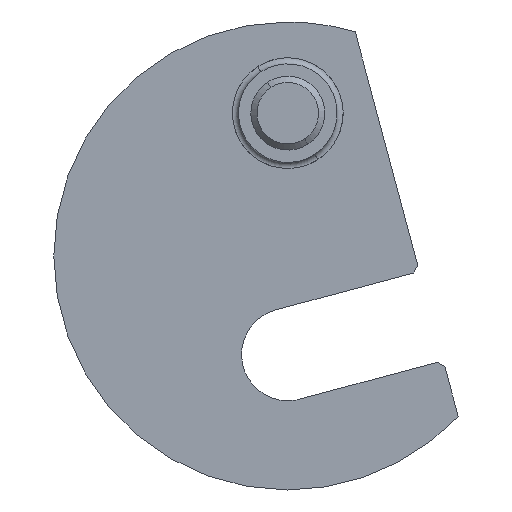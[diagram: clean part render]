
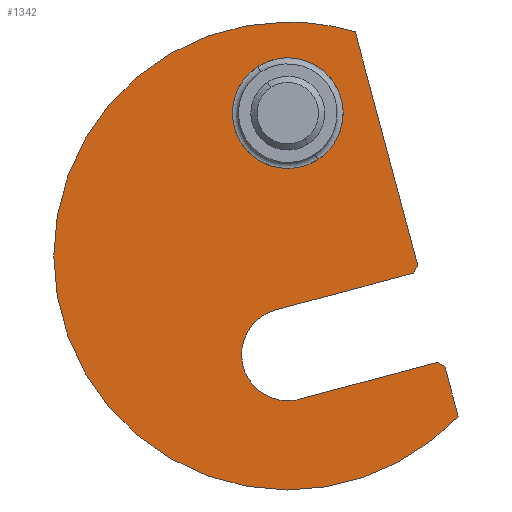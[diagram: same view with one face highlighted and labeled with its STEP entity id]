
A CAD part, front view. The second image highlights one B-rep face of the part: STEP entity #1342.
In plain terms, the highlighted planar face has unit normal (0, -1, 0).
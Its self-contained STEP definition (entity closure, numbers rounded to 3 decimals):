
#93 = VERTEX_POINT ( 'NONE', #940 ) ;
#107 = VERTEX_POINT ( 'NONE', #621 ) ;
#108 = VERTEX_POINT ( 'NONE', #620 ) ;
#127 = EDGE_CURVE ( 'NONE', #107, #108, #610, .T. ) ;
#138 = EDGE_CURVE ( 'NONE', #139, #188, #1199, .T. ) ;
#139 = VERTEX_POINT ( 'NONE', #1208 ) ;
#188 = VERTEX_POINT ( 'NONE', #417 ) ;
#417 = CARTESIAN_POINT ( 'NONE',  ( 0., 0., 16.1 ) ) ;
#499 = DIRECTION ( 'NONE',  ( 0.259, 0., -0.966 ) ) ;
#500 = VECTOR ( 'NONE', #499, 1000. ) ;
#501 = CARTESIAN_POINT ( 'NONE',  ( 5.478, 0., 18.193 ) ) ;
#503 = LINE ( 'NONE', #501, #500 ) ;
#505 = AXIS2_PLACEMENT_3D ( 'NONE', #513, #512, #511 ) ;
#506 = DIRECTION ( 'NONE',  ( 0., -1., 0. ) ) ;
#508 = AXIS2_PLACEMENT_3D ( 'NONE', #521, #506, #522 ) ;
#511 = DIRECTION ( 'NONE',  ( 0., 0., 1. ) ) ;
#512 = DIRECTION ( 'NONE',  ( 0., 1., 0. ) ) ;
#513 = CARTESIAN_POINT ( 'NONE',  ( 0., 0., 0. ) ) ;
#515 = CIRCLE ( 'NONE', #508, 3.75 ) ;
#516 = DIRECTION ( 'NONE',  ( -0.866, 0., 0.5 ) ) ;
#517 = VECTOR ( 'NONE', #516, 1000. ) ;
#518 = CARTESIAN_POINT ( 'NONE',  ( 12.759, 0., -8.981 ) ) ;
#519 = LINE ( 'NONE', #518, #517 ) ;
#520 = CIRCLE ( 'NONE', #505, 19. ) ;
#521 = CARTESIAN_POINT ( 'NONE',  ( 0., 0., -8. ) ) ;
#522 = DIRECTION ( 'NONE',  ( 0., 0., 1. ) ) ;
#523 = CARTESIAN_POINT ( 'NONE',  ( 10.206, 0., -1.383 ) ) ;
#524 = CARTESIAN_POINT ( 'NONE',  ( -0.971, 0., -4.378 ) ) ;
#525 = CARTESIAN_POINT ( 'NONE',  ( -0.971, 0., -4.378 ) ) ;
#526 = LINE ( 'NONE', #525, #533 ) ;
#527 = DIRECTION ( 'NONE',  ( 0.5, 0., 0.866 ) ) ;
#528 = VECTOR ( 'NONE', #527, 1000. ) ;
#529 = LINE ( 'NONE', #523, #528 ) ;
#531 = CARTESIAN_POINT ( 'NONE',  ( 12.147, 0., -8.628 ) ) ;
#532 = DIRECTION ( 'NONE',  ( -0.966, 0., -0.259 ) ) ;
#533 = VECTOR ( 'NONE', #532, 1000. ) ;
#534 = LINE ( 'NONE', #537, #536 ) ;
#535 = DIRECTION ( 'NONE',  ( 0.259, 0., -0.966 ) ) ;
#536 = VECTOR ( 'NONE', #535, 1000. ) ;
#537 = CARTESIAN_POINT ( 'NONE',  ( 12.63, 0., -8.498 ) ) ;
#606 = CARTESIAN_POINT ( 'NONE',  ( 0., 0., -8. ) ) ;
#607 = DIRECTION ( 'NONE',  ( 0., 0., 1. ) ) ;
#608 = DIRECTION ( 'NONE',  ( 0., -1., 0. ) ) ;
#609 = AXIS2_PLACEMENT_3D ( 'NONE', #606, #608, #607 ) ;
#610 = CIRCLE ( 'NONE', #609, 3.75 ) ;
#620 = CARTESIAN_POINT ( 'NONE',  ( 0.971, 0., -11.622 ) ) ;
#621 = CARTESIAN_POINT ( 'NONE',  ( 0., 0., -11.75 ) ) ;
#697 = CARTESIAN_POINT ( 'NONE',  ( 0., 0., 0. ) ) ;
#700 = DIRECTION ( 'NONE',  ( 0., 1., 0. ) ) ;
#702 = PLANE ( 'NONE',  #705 ) ;
#704 = DIRECTION ( 'NONE',  ( 0., 0., 1. ) ) ;
#705 = AXIS2_PLACEMENT_3D ( 'NONE', #697, #700, #704 ) ;
#718 = CARTESIAN_POINT ( 'NONE',  ( 10.559, 0., -0.771 ) ) ;
#721 = VECTOR ( 'NONE', #745, 1000. ) ;
#722 = CARTESIAN_POINT ( 'NONE',  ( 0.971, 0., -11.622 ) ) ;
#723 = LINE ( 'NONE', #722, #721 ) ;
#724 = CARTESIAN_POINT ( 'NONE',  ( 12.759, 0., -8.981 ) ) ;
#733 = DIRECTION ( 'NONE',  ( 0., 0., 1. ) ) ;
#734 = DIRECTION ( 'NONE',  ( 0., 1., 0. ) ) ;
#737 = CARTESIAN_POINT ( 'NONE',  ( 13.841, 0., -13.017 ) ) ;
#745 = DIRECTION ( 'NONE',  ( 0.966, 0., 0.259 ) ) ;
#746 = CARTESIAN_POINT ( 'NONE',  ( 0., 0., 0. ) ) ;
#747 = AXIS2_PLACEMENT_3D ( 'NONE', #746, #734, #733 ) ;
#748 = CIRCLE ( 'NONE', #747, 19. ) ;
#758 = CARTESIAN_POINT ( 'NONE',  ( 10.206, 0., -1.383 ) ) ;
#759 = FACE_OUTER_BOUND ( 'NONE', #1341, .T. ) ;
#762 = FACE_BOUND ( 'NONE', #1324, .T. ) ;
#766 = CARTESIAN_POINT ( 'NONE',  ( 5.478, 0., 18.193 ) ) ;
#776 = DIRECTION ( 'NONE',  ( 0., 0., 1. ) ) ;
#777 = DIRECTION ( 'NONE',  ( 0., 1., 0. ) ) ;
#778 = CARTESIAN_POINT ( 'NONE',  ( 0., 0., 11.6 ) ) ;
#779 = AXIS2_PLACEMENT_3D ( 'NONE', #778, #777, #776 ) ;
#781 = CIRCLE ( 'NONE', #779, 4.5 ) ;
#811 = CARTESIAN_POINT ( 'NONE',  ( 0., 0., -19. ) ) ;
#812 = CIRCLE ( 'NONE', #816, 19. ) ;
#813 = DIRECTION ( 'NONE',  ( 0., 0., 1. ) ) ;
#814 = DIRECTION ( 'NONE',  ( 0., 1., 0. ) ) ;
#815 = CARTESIAN_POINT ( 'NONE',  ( 0., 0., 0. ) ) ;
#816 = AXIS2_PLACEMENT_3D ( 'NONE', #815, #814, #813 ) ;
#940 = CARTESIAN_POINT ( 'NONE',  ( 0., 0., 19. ) ) ;
#1195 = DIRECTION ( 'NONE',  ( 0., 0., 1. ) ) ;
#1196 = DIRECTION ( 'NONE',  ( 0., 1., 0. ) ) ;
#1197 = CARTESIAN_POINT ( 'NONE',  ( 0., 0., 11.6 ) ) ;
#1198 = AXIS2_PLACEMENT_3D ( 'NONE', #1197, #1196, #1195 ) ;
#1199 = CIRCLE ( 'NONE', #1198, 4.5 ) ;
#1208 = CARTESIAN_POINT ( 'NONE',  ( 0., 0., 7.1 ) ) ;
#1270 = ORIENTED_EDGE ( 'NONE', *, *, #1285, .F. ) ;
#1273 = ORIENTED_EDGE ( 'NONE', *, *, #1274, .F. ) ;
#1274 = EDGE_CURVE ( 'NONE', #1346, #1306, #503, .T. ) ;
#1275 = VERTEX_POINT ( 'NONE', #524 ) ;
#1276 = EDGE_CURVE ( 'NONE', #1340, #1306, #529, .T. ) ;
#1279 = ORIENTED_EDGE ( 'NONE', *, *, #1288, .T. ) ;
#1280 = EDGE_CURVE ( 'NONE', #1275, #107, #515, .T. ) ;
#1284 = EDGE_CURVE ( 'NONE', #93, #1346, #520, .T. ) ;
#1285 = EDGE_CURVE ( 'NONE', #1340, #1275, #526, .T. ) ;
#1287 = VERTEX_POINT ( 'NONE', #531 ) ;
#1288 = EDGE_CURVE ( 'NONE', #1315, #1287, #519, .T. ) ;
#1289 = ORIENTED_EDGE ( 'NONE', *, *, #127, .F. ) ;
#1290 = EDGE_CURVE ( 'NONE', #1315, #1313, #534, .T. ) ;
#1301 = ORIENTED_EDGE ( 'NONE', *, *, #138, .T. ) ;
#1302 = ORIENTED_EDGE ( 'NONE', *, *, #1303, .T. ) ;
#1303 = EDGE_CURVE ( 'NONE', #188, #139, #781, .T. ) ;
#1306 = VERTEX_POINT ( 'NONE', #718 ) ;
#1307 = ORIENTED_EDGE ( 'NONE', *, *, #1276, .T. ) ;
#1313 = VERTEX_POINT ( 'NONE', #737 ) ;
#1314 = ORIENTED_EDGE ( 'NONE', *, *, #1290, .F. ) ;
#1315 = VERTEX_POINT ( 'NONE', #724 ) ;
#1316 = ORIENTED_EDGE ( 'NONE', *, *, #1284, .F. ) ;
#1317 = ORIENTED_EDGE ( 'NONE', *, *, #1354, .F. ) ;
#1318 = EDGE_CURVE ( 'NONE', #1313, #1352, #748, .T. ) ;
#1322 = EDGE_CURVE ( 'NONE', #108, #1287, #723, .T. ) ;
#1323 = ORIENTED_EDGE ( 'NONE', *, *, #1280, .F. ) ;
#1324 = EDGE_LOOP ( 'NONE', ( #1301, #1302 ) ) ;
#1326 = ORIENTED_EDGE ( 'NONE', *, *, #1318, .F. ) ;
#1337 = ORIENTED_EDGE ( 'NONE', *, *, #1322, .F. ) ;
#1340 = VERTEX_POINT ( 'NONE', #758 ) ;
#1341 = EDGE_LOOP ( 'NONE', ( #1270, #1307, #1273, #1316, #1317, #1326, #1314, #1279, #1337, #1289, #1323 ) ) ;
#1342 = ADVANCED_FACE ( 'NONE', ( #759, #762 ), #702, .F. ) ;
#1346 = VERTEX_POINT ( 'NONE', #766 ) ;
#1352 = VERTEX_POINT ( 'NONE', #811 ) ;
#1354 = EDGE_CURVE ( 'NONE', #1352, #93, #812, .T. ) ;
